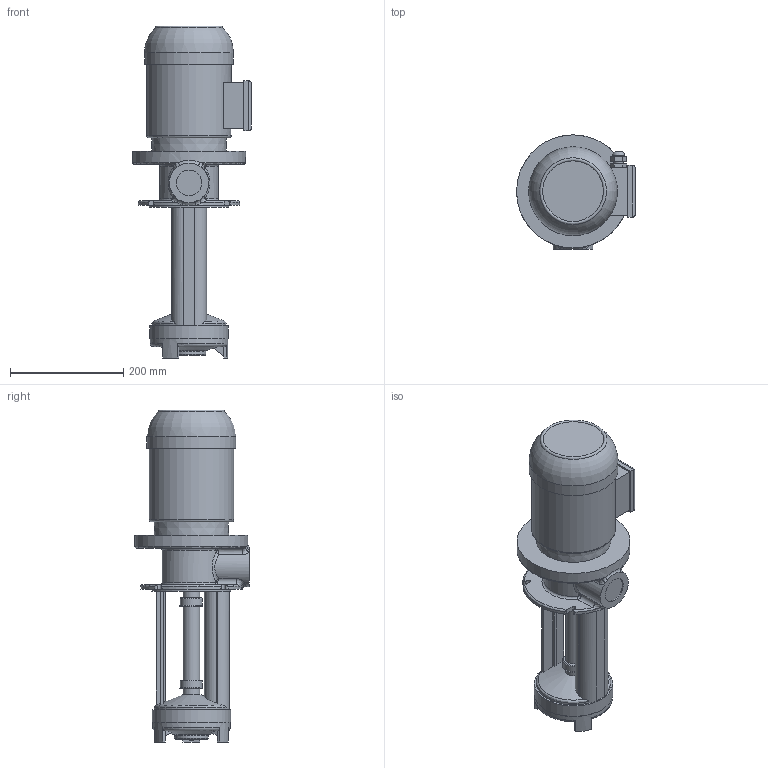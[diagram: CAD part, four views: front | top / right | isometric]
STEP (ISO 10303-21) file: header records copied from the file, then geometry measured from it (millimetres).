
FILE_DESCRIPTION(/* description */ ('Unknown'),/* implementation_level */ '2;1');
FILE_NAME(/* name */ 'gp270',/* time_stamp */ '2025-06-04T09:10:05+03:00',/* author */ ('Unknown'),/* organization */ ('Unknown'),/* preprocessor_version */ 'ST-DEVELOPER v16.7',/* originating_system */ 'DEX',/* authorisation */ $);
FILE_SCHEMA (('AUTOMOTIVE_DESIGN {1 0 10303 214 3 1 1}'));
Length unit declared in the file: millimetre
Products named in the file (1): gp270
Bounding box: 210.5 x 202 x 587.57 mm (x, y, z)
Volume: 7276312.4 mm3; surface area: 398877.2 mm2
Topology: 1 solids, 1 shells, 296 faces, 730 edges, 467 vertices
Faces by surface type: plane 112, bspline 87, cylinder 64, torus 17, cone 16
Full cylindrical faces by diameter (mm): 17 x1, 21.5 x1, 29 x3, 33 x2, 35 x2, 39 x2, 40.5 x2, 45 x1, 47 x1, 60 x1, 137 x1, 139 x1, 140 x1, 149.426 x1, 200 x1
Entity records: 11471 total; most frequent: CARTESIAN_POINT 5177, ORIENTED_EDGE 1360, DIRECTION 1073, EDGE_CURVE 680, VERTEX_POINT 462, AXIS2_PLACEMENT_3D 392, EDGE_LOOP 376, FACE_BOUND 376
